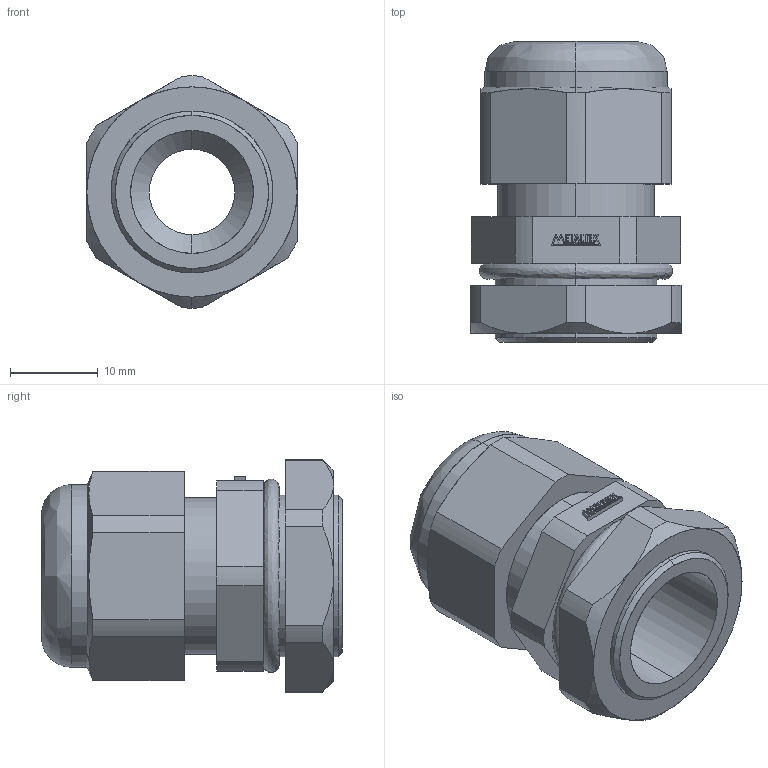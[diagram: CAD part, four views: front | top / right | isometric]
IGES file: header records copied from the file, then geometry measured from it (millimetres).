
Start section: SolidWorks IGES file using analytic representation for surfaces
Global section: file name: D:\X - Arquivos\PROEX\Empresas\P11 - METALTEX\01 - Produtos\IGES\Terceira remessa\Etapa 2\CH-PG11.IGS; native system: SolidWorks 2012; preprocessor: SolidWorks 2012; author: Usuario; date: 180207.123936; units: millimetre
Bounding box: 23.9 x 34.2 x 26.39 mm (x, y, z)
Surface area: 5067.9 mm2 (no closed solid volume)
Topology: 0 solids, 0 shells, 174 faces, 1313 edges, 1313 vertices
Faces by surface type: bspline 125, revolution 49
